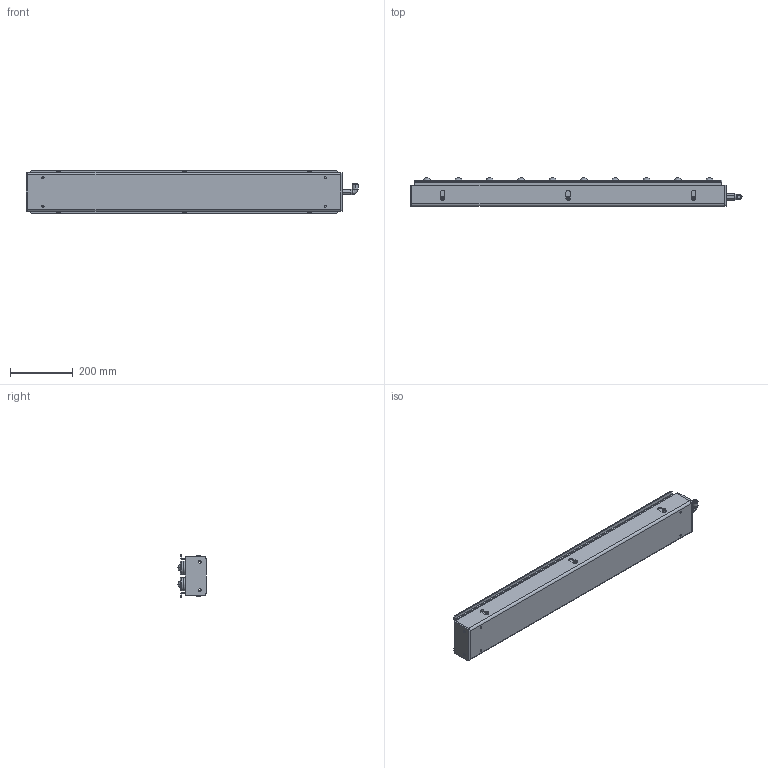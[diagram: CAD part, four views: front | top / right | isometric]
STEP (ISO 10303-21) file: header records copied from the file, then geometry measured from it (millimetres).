
FILE_DESCRIPTION (( 'STEP AP214' ), '1' );
FILE_NAME ('ALB-BB1008_L.STEP', '2013-03-19T08:14:59', ( '' ), ( '' ), '', '', '' );
FILE_SCHEMA (( 'AUTOMOTIVE_DESIGN' ));
Length unit declared in the file: millimetre
Products named in the file (6): ALB-BB1008_L; frame2; frame1; CB10_12; B-A25; KQ2W10_03S_2_03
Assembly tree (29 placements, depth 2):
  ALB-BB1008_L
    frame2
    frame1
    CB10_12  x6
    B-A25  x20
    KQ2W10_03S_2_03
Bounding box: 1058 x 89.95 x 135 mm (x, y, z)
Volume: 3198155.4 mm3; surface area: 1493335.1 mm2
Topology: 32 solids, 32 shells, 1376 faces, 3246 edges, 2106 vertices
Faces by surface type: cylinder 600, plane 434, bspline 302, cone 40
Entity records: 13308 total; most frequent: CARTESIAN_POINT 2913, DIRECTION 1965, ORIENTED_EDGE 1768, EDGE_CURVE 884, AXIS2_PLACEMENT_3D 749, VERTEX_POINT 583, EDGE_LOOP 487, LINE 467
